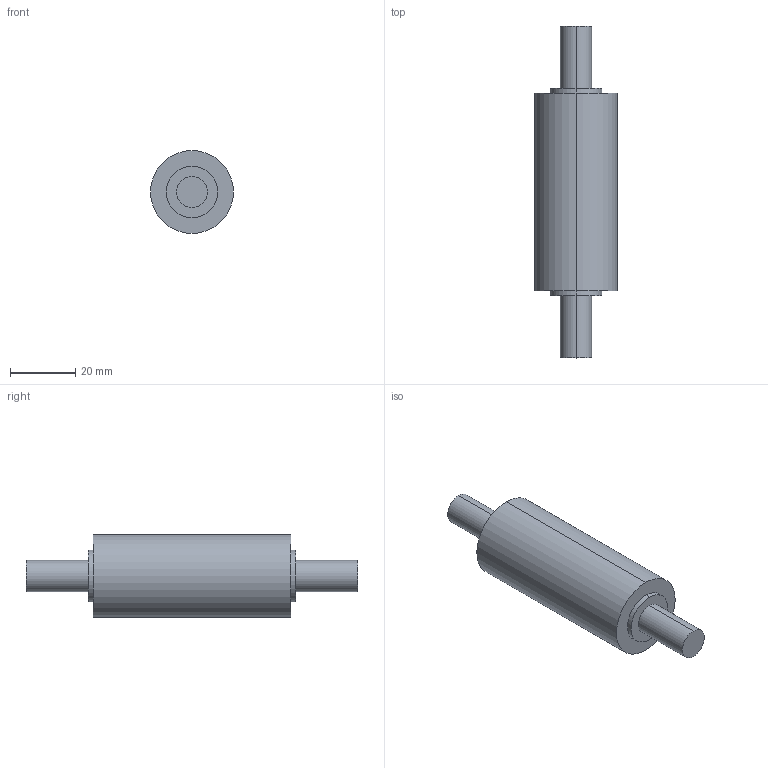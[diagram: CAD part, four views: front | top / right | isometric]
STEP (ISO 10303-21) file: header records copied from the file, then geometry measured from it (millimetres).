
FILE_DESCRIPTION (( 'STEP AP214' ), '1' );
FILE_NAME ('SS1432-1000KG-M-M.STEP', '2024-09-04T13:41:25', ( '' ), ( '' ), 'SwSTEP 2.0', 'SolidWorks 2008', '' );
FILE_SCHEMA (( 'AUTOMOTIVE_DESIGN' ));
Length unit declared in the file: inch
Products named in the file (1): SS1432-1000KG-M-M
Bounding box: 25.4 x 101.6 x 25.4 mm (x, y, z)
Volume: 33949.6 mm3; surface area: 7129.4 mm2
Topology: 1 solids, 1 shells, 16 faces, 30 edges, 20 vertices
Faces by surface type: cylinder 10, plane 6
Entity records: 441 total; most frequent: DIRECTION 84, CARTESIAN_POINT 67, ORIENTED_EDGE 60, AXIS2_PLACEMENT_3D 37, EDGE_CURVE 30, EDGE_LOOP 20, CIRCLE 20, VERTEX_POINT 20
